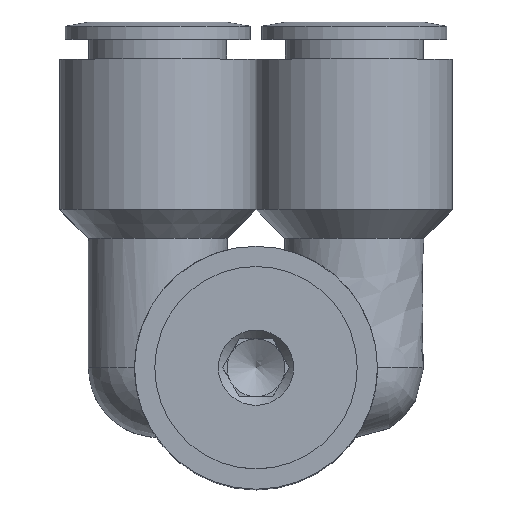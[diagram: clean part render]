
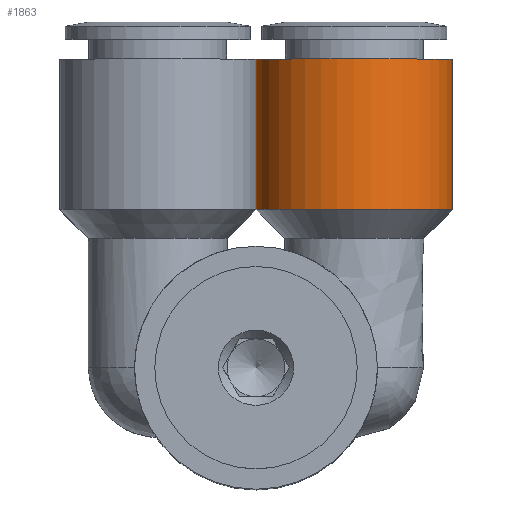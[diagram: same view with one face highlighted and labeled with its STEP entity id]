
A CAD part, top view. The second image highlights one B-rep face of the part: STEP entity #1863.
In plain terms, the highlighted free-form (B-spline) face has degree [1, 2] with [2, 9] control points.
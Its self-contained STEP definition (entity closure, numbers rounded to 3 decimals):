
#1798=CARTESIAN_POINT('',(0.,13.7,20.0));
#1799=VERTEX_POINT('',#1798);
#1800=CARTESIAN_POINT('',(8.5,13.7,20.0));
#1801=DIRECTION('',(0.0,-1.0,0.0));
#1802=DIRECTION('',(1.0,0.0,0.0));
#1803=AXIS2_PLACEMENT_3D('',#1800,#1801,#1802);
#1804=CIRCLE('',#1803,8.5);
#1805=EDGE_CURVE('',#1799,#1799,#1804,.T.);
#1813=CARTESIAN_POINT('',(0.,13.7,20.0));
#1814=CARTESIAN_POINT('',(0.,26.7,20.0));
#1815=CARTESIAN_POINT('',(0.,13.7,11.5));
#1816=CARTESIAN_POINT('',(0.,26.7,11.5));
#1817=CARTESIAN_POINT('',(8.5,13.7,11.5));
#1818=CARTESIAN_POINT('',(8.5,26.7,11.5));
#1819=CARTESIAN_POINT('',(17.,13.7,11.5));
#1820=CARTESIAN_POINT('',(17.,26.7,11.5));
#1821=CARTESIAN_POINT('',(17.,13.7,20.0));
#1822=CARTESIAN_POINT('',(17.,26.7,20.0));
#1823=CARTESIAN_POINT('',(17.,13.7,28.5));
#1824=CARTESIAN_POINT('',(17.,26.7,28.5));
#1825=CARTESIAN_POINT('',(8.5,13.7,28.5));
#1826=CARTESIAN_POINT('',(8.5,26.7,28.5));
#1827=CARTESIAN_POINT('',(0.,13.7,28.5));
#1828=CARTESIAN_POINT('',(0.,26.7,28.5));
#1829=CARTESIAN_POINT('',(0.,13.7,20.0));
#1830=CARTESIAN_POINT('',(0.,26.7,20.0));
#1838=(BOUNDED_SURFACE()B_SPLINE_SURFACE(1,2,((#1813,#1815,#1817,#1819,#1821,#1823,#1825,#1827,#1829),(#1814,#1816,#1818,#1820,#1822,#1824,#1826,#1828,#1830)),.UNSPECIFIED.,.F.,.T.,.U.)B_SPLINE_SURFACE_WITH_KNOTS((2,2),(3,2,2,2,3),(-0.765,0.765),(0.0,13.352,26.704,40.055,53.407),.UNSPECIFIED.)GEOMETRIC_REPRESENTATION_ITEM()RATIONAL_B_SPLINE_SURFACE(((1.0,0.707,1.0,0.707,1.0,0.707,1.0,0.707,1.0),(1.0,0.707,1.0,0.707,1.0,0.707,1.0,0.707,1.0)))REPRESENTATION_ITEM('')SURFACE());
#1839=CARTESIAN_POINT('',(0.,26.7,20.0));
#1840=VERTEX_POINT('',#1839);
#1841=CARTESIAN_POINT('',(8.5,26.7,20.0));
#1842=DIRECTION('',(0.0,-1.0,0.0));
#1843=DIRECTION('',(1.0,0.0,0.0));
#1844=AXIS2_PLACEMENT_3D('',#1841,#1842,#1843);
#1845=CIRCLE('',#1844,8.5);
#1846=EDGE_CURVE('',#1840,#1840,#1845,.T.);
#1847=ORIENTED_EDGE('',*,*,#1846,.T.);
#1848=CARTESIAN_POINT('',(0.,26.7,20.0));
#1849=DIRECTION('',(0.0,-1.0,0.0));
#1850=VECTOR('',#1849,13.);
#1851=LINE('',#1848,#1850);
#1852=EDGE_CURVE('',#1840,#1799,#1851,.T.);
#1853=ORIENTED_EDGE('',*,*,#1852,.T.);
#1854=ORIENTED_EDGE('',*,*,#1805,.F.);
#1855=CARTESIAN_POINT('',(0.,26.7,20.0));
#1856=DIRECTION('',(0.0,-1.0,0.0));
#1857=VECTOR('',#1856,13.);
#1858=LINE('',#1855,#1857);
#1859=EDGE_CURVE('',#1840,#1799,#1858,.T.);
#1860=ORIENTED_EDGE('',*,*,#1859,.F.);
#1861=EDGE_LOOP('',(#1847,#1853,#1854,#1860));
#1862=FACE_OUTER_BOUND('',#1861,.T.);
#1863=ADVANCED_FACE('',(#1862),#1838,.T.);
